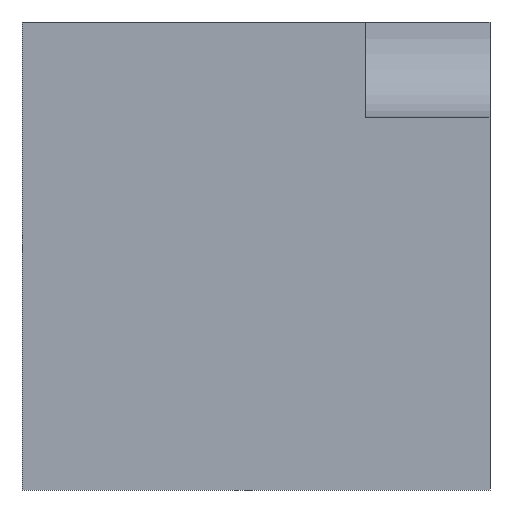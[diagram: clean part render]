
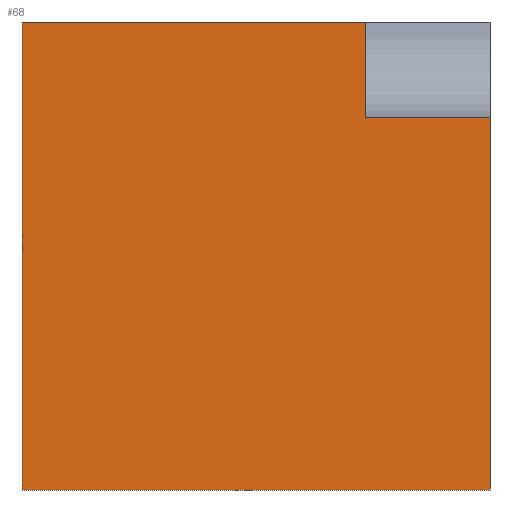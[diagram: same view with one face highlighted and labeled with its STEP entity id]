
A CAD part, front view. The second image highlights one B-rep face of the part: STEP entity #68.
In plain terms, the highlighted planar face has unit normal (0, -1, 0).
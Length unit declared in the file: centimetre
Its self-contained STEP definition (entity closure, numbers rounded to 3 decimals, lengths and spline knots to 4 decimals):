
#22 = CARTESIAN_POINT ( 'NONE',  ( 734.1166, 0., 796.965 ) ) ;
#28 = CARTESIAN_POINT ( 'NONE',  ( 1000., 0., 0. ) ) ;
#35 = ORIENTED_EDGE ( 'NONE', *, *, #145, .F. ) ;
#52 = DIRECTION ( 'NONE',  ( 0., 0., -1. ) ) ;
#60 = CARTESIAN_POINT ( 'NONE',  ( 0., 0., 0. ) ) ;
#68 = ADVANCED_FACE ( 'NONE', ( #153 ), #330, .F. ) ;
#76 = CARTESIAN_POINT ( 'NONE',  ( 0., 0., 1000. ) ) ;
#97 = CARTESIAN_POINT ( 'NONE',  ( 734.1166, 0., 1000. ) ) ;
#105 = EDGE_CURVE ( 'NONE', #398, #137, #381, .T. ) ;
#109 = VERTEX_POINT ( 'NONE', #216 ) ;
#113 = LINE ( 'NONE', #60, #496 ) ;
#128 = CARTESIAN_POINT ( 'NONE',  ( 734.1166, 0., 796.965 ) ) ;
#129 = VECTOR ( 'NONE', #391, 100. ) ;
#137 = VERTEX_POINT ( 'NONE', #28 ) ;
#145 = EDGE_CURVE ( 'NONE', #320, #109, #433, .T. ) ;
#153 = FACE_OUTER_BOUND ( 'NONE', #346, .T. ) ;
#160 = DIRECTION ( 'NONE',  ( 1., 0., 0. ) ) ;
#186 = CARTESIAN_POINT ( 'NONE',  ( 0., 0., 1000. ) ) ;
#207 = EDGE_CURVE ( 'NONE', #320, #390, #262, .T. ) ;
#216 = CARTESIAN_POINT ( 'NONE',  ( 734.1166, 0., 1000. ) ) ;
#244 = VECTOR ( 'NONE', #287, 100. ) ;
#259 = DIRECTION ( 'NONE',  ( 0., 0., -1. ) ) ;
#261 = VERTEX_POINT ( 'NONE', #128 ) ;
#262 = LINE ( 'NONE', #76, #397 ) ;
#265 = ORIENTED_EDGE ( 'NONE', *, *, #207, .T. ) ;
#287 = DIRECTION ( 'NONE',  ( -1., 0., 0. ) ) ;
#292 = AXIS2_PLACEMENT_3D ( 'NONE', #369, #549, #332 ) ;
#312 = CARTESIAN_POINT ( 'NONE',  ( 0., 0., 0. ) ) ;
#320 = VERTEX_POINT ( 'NONE', #186 ) ;
#330 = PLANE ( 'NONE',  #292 ) ;
#332 = DIRECTION ( 'NONE',  ( 0., 0., 1. ) ) ;
#342 = CARTESIAN_POINT ( 'NONE',  ( 0., 0., 1000. ) ) ;
#346 = EDGE_LOOP ( 'NONE', ( #348, #451, #456, #35, #265, #446 ) ) ;
#347 = CARTESIAN_POINT ( 'NONE',  ( 1000., 0., 1000. ) ) ;
#348 = ORIENTED_EDGE ( 'NONE', *, *, #105, .F. ) ;
#369 = CARTESIAN_POINT ( 'NONE',  ( 0., 0., 1000. ) ) ;
#371 = LINE ( 'NONE', #22, #244 ) ;
#381 = LINE ( 'NONE', #347, #541 ) ;
#390 = VERTEX_POINT ( 'NONE', #312 ) ;
#391 = DIRECTION ( 'NONE',  ( 1., 0., 0. ) ) ;
#397 = VECTOR ( 'NONE', #529, 100. ) ;
#398 = VERTEX_POINT ( 'NONE', #538 ) ;
#418 = VECTOR ( 'NONE', #52, 100. ) ;
#433 = LINE ( 'NONE', #342, #129 ) ;
#434 = EDGE_CURVE ( 'NONE', #109, #261, #501, .T. ) ;
#446 = ORIENTED_EDGE ( 'NONE', *, *, #555, .T. ) ;
#451 = ORIENTED_EDGE ( 'NONE', *, *, #568, .T. ) ;
#456 = ORIENTED_EDGE ( 'NONE', *, *, #434, .F. ) ;
#496 = VECTOR ( 'NONE', #160, 100. ) ;
#501 = LINE ( 'NONE', #97, #418 ) ;
#529 = DIRECTION ( 'NONE',  ( 0., 0., -1. ) ) ;
#538 = CARTESIAN_POINT ( 'NONE',  ( 1000., 0., 796.965 ) ) ;
#541 = VECTOR ( 'NONE', #259, 100. ) ;
#549 = DIRECTION ( 'NONE',  ( 0., 1., 0. ) ) ;
#555 = EDGE_CURVE ( 'NONE', #390, #137, #113, .T. ) ;
#568 = EDGE_CURVE ( 'NONE', #398, #261, #371, .T. ) ;
